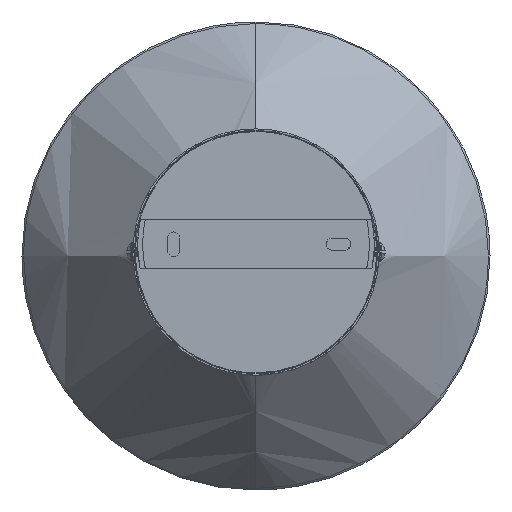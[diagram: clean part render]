
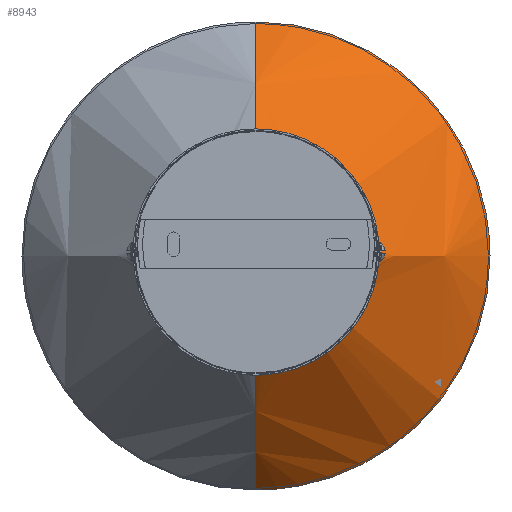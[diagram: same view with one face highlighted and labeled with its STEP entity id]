
A CAD part, top view. The second image highlights one B-rep face of the part: STEP entity #8943.
In plain terms, the highlighted free-form (B-spline) face has degree [3, 3] with [7, 4] control points.
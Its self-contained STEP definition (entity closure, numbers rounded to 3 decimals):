
#800 = CARTESIAN_POINT ( 'NONE',  ( -55.323, 4000.411, 278.974 ) ) ;
#1035 = CARTESIAN_POINT ( 'NONE',  ( -49.291, 3870.252, 345.469 ) ) ;
#1254 = CARTESIAN_POINT ( 'NONE',  ( -15.005, 3938.823, 345.469 ) ) ;
#1999 = CARTESIAN_POINT ( 'NONE',  ( -52.845, 3848.045, 326.63 ) ) ;
#2082 = CARTESIAN_POINT ( 'NONE',  ( -16.366, 3924.8, 346.622 ) ) ;
#2250 = CARTESIAN_POINT ( 'NONE',  ( 3.677, 4004.122, 278.974 ) ) ;
#2493 =( BOUNDED_CURVE ( )  B_SPLINE_CURVE ( 2, ( #7488, #11385, #15328 ),
 .UNSPECIFIED., .F., .F. ) 
 B_SPLINE_CURVE_WITH_KNOTS ( ( 3, 3 ),
 ( 0., 1. ),
 .UNSPECIFIED. ) 
 CURVE ( )  GEOMETRIC_REPRESENTATION_ITEM ( )  RATIONAL_B_SPLINE_CURVE ( ( 1., 0.707, 1. ) ) 
 REPRESENTATION_ITEM ( '' )  );
#2747 =( BOUNDED_CURVE ( )  B_SPLINE_CURVE ( 2, ( #3378, #11517, #15038 ),
 .UNSPECIFIED., .F., .F. ) 
 B_SPLINE_CURVE_WITH_KNOTS ( ( 3, 3 ),
 ( -89.185, 0. ),
 .UNSPECIFIED. ) 
 CURVE ( )  GEOMETRIC_REPRESENTATION_ITEM ( )  RATIONAL_B_SPLINE_CURVE ( ( 1., 0.993, 1. ) ) 
 REPRESENTATION_ITEM ( '' )  );
#2937 = VERTEX_POINT ( 'NONE', #12152 ) ;
#3281 = CARTESIAN_POINT ( 'NONE',  ( 7.313, 3904.537, 326.63 ) ) ;
#3371 = CARTESIAN_POINT ( 'NONE',  ( -18.08, 3845.858, 326.63 ) ) ;
#3378 = CARTESIAN_POINT ( 'NONE',  ( -49.291, 3999.543, 280.411 ) ) ;
#3636 = CARTESIAN_POINT ( 'NONE',  ( 3.677, 3804.952, 278.974 ) ) ;
#3962 = CARTESIAN_POINT ( 'NONE',  ( 45.714, 3904.537, 280.411 ) ) ;
#4410 = EDGE_CURVE ( 'NONE', #2937, #15221, #16199, .T. ) ;
#4575 = CARTESIAN_POINT ( 'NONE',  ( -16.366, 3884.275, 346.622 ) ) ;
#4735 = CARTESIAN_POINT ( 'NONE',  ( -54.173, 3826.942, 303.974 ) ) ;
#4905 = CARTESIAN_POINT ( 'NONE',  ( 28.458, 3952.384, 303.974 ) ) ;
#4971 = CARTESIAN_POINT ( 'NONE',  ( -49.291, 3836.164, 316.419 ) ) ;
#5438 = CARTESIAN_POINT ( 'NONE',  ( -15.005, 3870.252, 345.469 ) ) ;
#5501 = VERTEX_POINT ( 'NONE', #12001 ) ;
#5831 = FACE_OUTER_BOUND ( 'NONE', #12153, .T. ) ;
#6072 = ORIENTED_EDGE ( 'NONE', *, *, #10556, .F. ) ;
#6085 = CARTESIAN_POINT ( 'NONE',  ( 28.458, 3904.537, 303.974 ) ) ;
#6420 = ORIENTED_EDGE ( 'NONE', *, *, #12693, .T. ) ;
#6442 = CARTESIAN_POINT ( 'NONE',  ( -49.291, 3870.252, 345.469 ) ) ;
#6985 = VERTEX_POINT ( 'NONE', #14393 ) ;
#7200 = CARTESIAN_POINT ( 'NONE',  ( -52.845, 3961.03, 326.63 ) ) ;
#7318 = CARTESIAN_POINT ( 'NONE',  ( 45.714, 3904.537, 280.411 ) ) ;
#7416 = ORIENTED_EDGE ( 'NONE', *, *, #4410, .F. ) ;
#7488 = CARTESIAN_POINT ( 'NONE',  ( 45.714, 3904.537, 280.411 ) ) ;
#8057 =( BOUNDED_CURVE ( )  B_SPLINE_CURVE ( 2, ( #1035, #4971, #10123 ),
 .UNSPECIFIED., .F., .F. ) 
 B_SPLINE_CURVE_WITH_KNOTS ( ( 3, 3 ),
 ( 0., 89.185 ),
 .UNSPECIFIED. ) 
 CURVE ( )  GEOMETRIC_REPRESENTATION_ITEM ( )  RATIONAL_B_SPLINE_CURVE ( ( 1., 0.993, 1. ) ) 
 REPRESENTATION_ITEM ( '' )  );
#8446 = CARTESIAN_POINT ( 'NONE',  ( -31.136, 3870.405, 346.622 ) ) ;
#8783 = CARTESIAN_POINT ( 'NONE',  ( -51.358, 3871.677, 346.622 ) ) ;
#8943 = ADVANCED_FACE ( 'NONE', ( #5831 ), #16074, .T. ) ;
#9727 = CARTESIAN_POINT ( 'NONE',  ( -6.421, 3985.137, 303.974 ) ) ;
#10058 = CARTESIAN_POINT ( 'NONE',  ( 46.772, 3963.654, 278.974 ) ) ;
#10123 = CARTESIAN_POINT ( 'NONE',  ( -49.291, 3809.532, 280.411 ) ) ;
#10341 = CARTESIAN_POINT ( 'NONE',  ( -15.005, 3904.537, 345.469 ) ) ;
#10556 = EDGE_CURVE ( 'NONE', #15221, #6985, #2493, .T. ) ;
#11126 = EDGE_CURVE ( 'NONE', #13153, #6985, #8057, .T. ) ;
#11347 = CARTESIAN_POINT ( 'NONE',  ( -51.358, 3937.398, 346.622 ) ) ;
#11385 = CARTESIAN_POINT ( 'NONE',  ( 45.714, 3809.532, 280.411 ) ) ;
#11517 = CARTESIAN_POINT ( 'NONE',  ( -49.291, 3972.911, 316.419 ) ) ;
#11925 = CARTESIAN_POINT ( 'NONE',  ( 45.714, 3999.543, 280.411 ) ) ;
#12001 = CARTESIAN_POINT ( 'NONE',  ( -49.291, 3938.823, 345.469 ) ) ;
#12008 = CARTESIAN_POINT ( 'NONE',  ( -49.291, 3999.543, 280.411 ) ) ;
#12152 = CARTESIAN_POINT ( 'NONE',  ( -49.291, 3999.543, 280.411 ) ) ;
#12153 = EDGE_LOOP ( 'NONE', ( #7416, #13059, #6420, #12615, #6072 ) ) ;
#12376 = CARTESIAN_POINT ( 'NONE',  ( -6.421, 3823.938, 303.974 ) ) ;
#12457 = CARTESIAN_POINT ( 'NONE',  ( 7.313, 3939.371, 326.63 ) ) ;
#12615 = ORIENTED_EDGE ( 'NONE', *, *, #11126, .T. ) ;
#12641 = CARTESIAN_POINT ( 'NONE',  ( 46.772, 3904.537, 278.974 ) ) ;
#12693 = EDGE_CURVE ( 'NONE', #5501, #13153, #15572, .T. ) ;
#12889 = EDGE_CURVE ( 'NONE', #2937, #5501, #2747, .T. ) ;
#13059 = ORIENTED_EDGE ( 'NONE', *, *, #12889, .T. ) ;
#13153 = VERTEX_POINT ( 'NONE', #16291 ) ;
#13760 = CARTESIAN_POINT ( 'NONE',  ( -31.136, 3938.67, 346.622 ) ) ;
#13918 = CARTESIAN_POINT ( 'NONE',  ( -54.173, 3982.133, 303.974 ) ) ;
#14004 = CARTESIAN_POINT ( 'NONE',  ( -55.323, 3808.664, 278.974 ) ) ;
#14393 = CARTESIAN_POINT ( 'NONE',  ( -49.291, 3809.532, 280.411 ) ) ;
#14944 = CARTESIAN_POINT ( 'NONE',  ( 46.772, 3845.421, 278.974 ) ) ;
#15032 = CARTESIAN_POINT ( 'NONE',  ( 7.313, 3869.704, 326.63 ) ) ;
#15038 = CARTESIAN_POINT ( 'NONE',  ( -49.291, 3938.823, 345.469 ) ) ;
#15119 = CARTESIAN_POINT ( 'NONE',  ( -16.366, 3904.537, 346.622 ) ) ;
#15221 = VERTEX_POINT ( 'NONE', #7318 ) ;
#15285 = CARTESIAN_POINT ( 'NONE',  ( 28.458, 3856.691, 303.974 ) ) ;
#15328 = CARTESIAN_POINT ( 'NONE',  ( -49.291, 3809.532, 280.411 ) ) ;
#15572 =( BOUNDED_CURVE ( )  B_SPLINE_CURVE ( 2, ( #15649, #1254, #10341, #5438, #6442 ),
 .UNSPECIFIED., .F., .F. ) 
 B_SPLINE_CURVE_WITH_KNOTS ( ( 3, 2, 3 ),
 ( -107.711, -53.855, 0. ),
 .UNSPECIFIED. ) 
 CURVE ( )  GEOMETRIC_REPRESENTATION_ITEM ( )  RATIONAL_B_SPLINE_CURVE ( ( 1., 0.707, 1., 0.707, 1. ) ) 
 REPRESENTATION_ITEM ( '' )  );
#15649 = CARTESIAN_POINT ( 'NONE',  ( -49.291, 3938.823, 345.469 ) ) ;
#16074 =( BOUNDED_SURFACE ( )  B_SPLINE_SURFACE ( 3, 3, ( 
 ( #11347, #7200, #13918, #800 ),
 ( #13760, #16581, #9727, #2250 ),
 ( #2082, #12457, #4905, #10058 ),
 ( #15119, #3281, #6085, #12641 ),
 ( #4575, #15032, #15285, #14944 ),
 ( #8446, #3371, #12376, #3636 ),
 ( #8783, #1999, #4735, #14004 ) ),
 .UNSPECIFIED., .F., .F., .F. ) 
 B_SPLINE_SURFACE_WITH_KNOTS ( ( 4, 3, 4 ),
 ( 4, 4 ),
 ( 0., 177.35, 354.701 ),
 ( 0., 100.832 ),
 .UNSPECIFIED. ) 
 GEOMETRIC_REPRESENTATION_ITEM ( )  RATIONAL_B_SPLINE_SURFACE ( (
 ( 1.191, 1.186, 1.186, 1.191),
 ( 0.941, 0.936, 0.936, 0.941),
 ( 0.941, 0.936, 0.936, 0.941),
 ( 1.191, 1.186, 1.186, 1.191),
 ( 0.941, 0.936, 0.936, 0.941),
 ( 0.941, 0.936, 0.936, 0.941),
 ( 1.191, 1.186, 1.186, 1.191) ) ) 
 REPRESENTATION_ITEM ( '' )  SURFACE ( )  );
#16199 =( BOUNDED_CURVE ( )  B_SPLINE_CURVE ( 2, ( #12008, #11925, #3962 ),
 .UNSPECIFIED., .F., .F. ) 
 B_SPLINE_CURVE_WITH_KNOTS ( ( 3, 3 ),
 ( 0., 149.234 ),
 .UNSPECIFIED. ) 
 CURVE ( )  GEOMETRIC_REPRESENTATION_ITEM ( )  RATIONAL_B_SPLINE_CURVE ( ( 1., 0.707, 1. ) ) 
 REPRESENTATION_ITEM ( '' )  );
#16291 = CARTESIAN_POINT ( 'NONE',  ( -49.291, 3870.252, 345.469 ) ) ;
#16581 = CARTESIAN_POINT ( 'NONE',  ( -18.08, 3963.217, 326.63 ) ) ;
